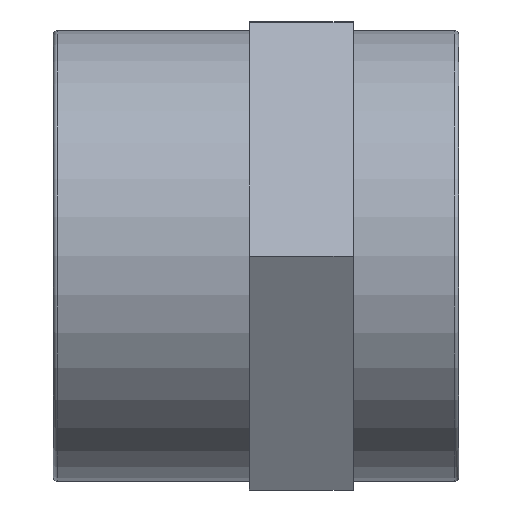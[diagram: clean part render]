
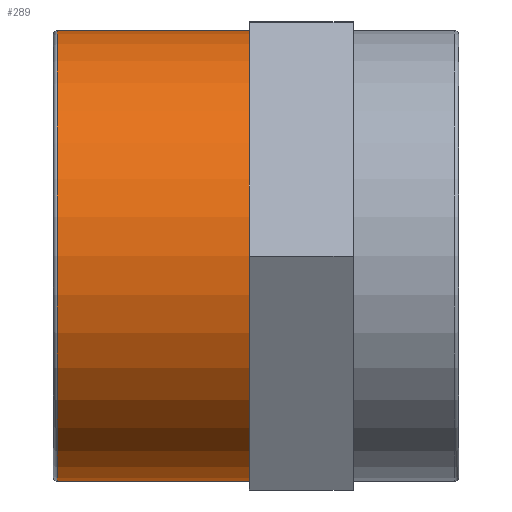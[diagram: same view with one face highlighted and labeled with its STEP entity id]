
A CAD part, top view. The second image highlights one B-rep face of the part: STEP entity #289.
In plain terms, the highlighted cylindrical face has radius 43.336 mm (diameter 86.671 mm), a full revolution.
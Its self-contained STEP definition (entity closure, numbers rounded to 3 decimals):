
#54=CYLINDRICAL_SURFACE('',#323,43.336);
#77=FACE_BOUND('',#123,.T.);
#92=FACE_OUTER_BOUND('',#122,.T.);
#122=EDGE_LOOP('',(#230));
#123=EDGE_LOOP('',(#231));
#150=CIRCLE('',#322,43.336);
#151=CIRCLE('',#324,43.336);
#164=VERTEX_POINT('',#458);
#165=VERTEX_POINT('',#461);
#190=EDGE_CURVE('',#164,#164,#150,.T.);
#191=EDGE_CURVE('',#165,#165,#151,.T.);
#230=ORIENTED_EDGE('',*,*,#191,.T.);
#231=ORIENTED_EDGE('',*,*,#190,.F.);
#289=ADVANCED_FACE('',(#92,#77),#54,.T.);
#322=AXIS2_PLACEMENT_3D('',#459,#378,#379);
#323=AXIS2_PLACEMENT_3D('',#460,#380,#381);
#324=AXIS2_PLACEMENT_3D('',#462,#382,#383);
#378=DIRECTION('center_axis',(-1.,0.,0.));
#379=DIRECTION('ref_axis',(0.,1.,0.));
#380=DIRECTION('center_axis',(-1.,0.,0.));
#381=DIRECTION('ref_axis',(0.,-1.,0.));
#382=DIRECTION('center_axis',(-1.,0.,0.));
#383=DIRECTION('ref_axis',(0.,0.,1.));
#458=CARTESIAN_POINT('',(-38.278,-43.336,0.));
#459=CARTESIAN_POINT('Origin',(-38.278,0.,0.));
#460=CARTESIAN_POINT('Origin',(-20.15,0.,0.));
#461=CARTESIAN_POINT('',(-1.3,-43.336,0.));
#462=CARTESIAN_POINT('Origin',(-1.3,0.,0.));
